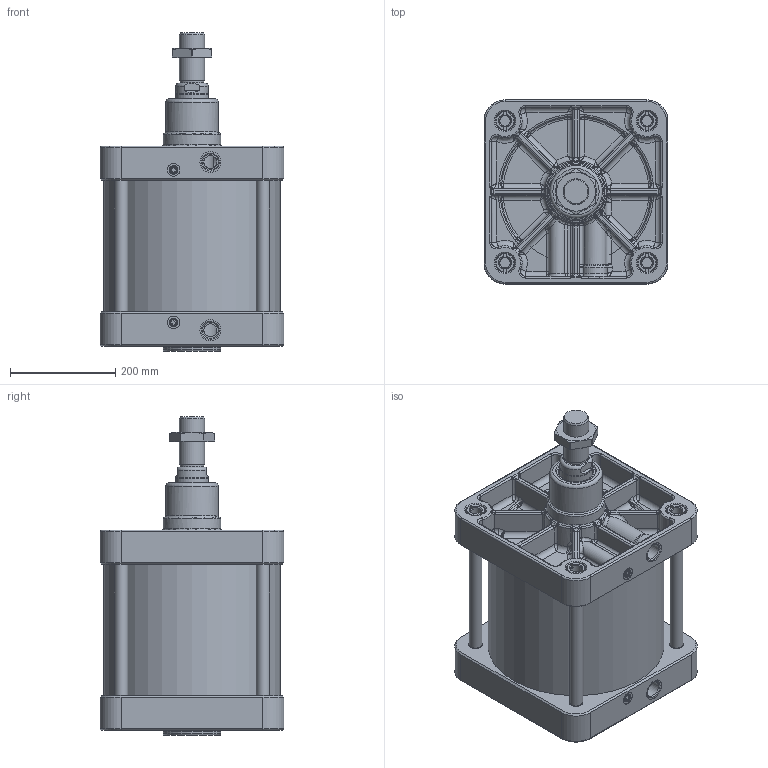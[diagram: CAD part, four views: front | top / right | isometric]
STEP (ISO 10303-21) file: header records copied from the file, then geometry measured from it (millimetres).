
FILE_DESCRIPTION(/* description */ (''),/* implementation_level */ '2;1');
FILE_NAME(/* name */ 'T:\Archivio Inventor\- 00 NUOVI STP PER SITO CON STELO CHE SI MUOVE\SERIE H - U\SERIE UDM\UDM320.---.GS.M\UDM320.160.GS.M.stp',/* time_stamp */ '2020-04-29T16:29:17+02:00',/* author */ ('carlo.corazza'),/* organization */ (''),/* preprocessor_version */ 'ST-DEVELOPER v16.5',/* originating_system */ 'Autodesk Inventor 2017',/* authorisation */ '');
FILE_SCHEMA (('AUTOMOTIVE_DESIGN { 1 0 10303 214 3 1 1 }'));
Length unit declared in the file: millimetre
Products named in the file (7): UDM320.160.GS.M; TP; STELO-160; TA; CORPO-160; TIRANTE-160; 29.2048.000.0
Assembly tree (9 placements, depth 2):
  UDM320.160.GS.M
    TP
    STELO-160
    TA
    TIRANTE-160  x4
    CORPO-160
    29.2048.000.0
Bounding box: 350 x 350 x 606 mm (x, y, z)
Volume: 13169859.9 mm3; surface area: 1879399.2 mm2
Topology: 9 solids, 16 shells, 1710 faces, 3937 edges, 2221 vertices
Faces by surface type: cylinder 439, bspline 432, plane 380, torus 252, cone 115, sphere 92
Full cylindrical faces by diameter (mm): 8 x2, 9 x1, 10 x1, 11 x2, 11.2 x2, 12 x2, 12.376 x1, 13.4 x4, 14 x2, 15.8 x4, 16 x6, 20.752 x8, 24 x10, 24.5 x8, 25 x6, 30.291 x2, 36 x9, 37 x8, 40 x2, 44.8 x1, 45.835 x1, 48 x1, 62 x1, 63 x1, 64 x1, 64.293 x1, 65.8 x1, 73 x1, 75 x3, 100 x1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
Entity records: 64917 total; most frequent: CARTESIAN_POINT 27888, DIRECTION 7314, ORIENTED_EDGE 7088, EDGE_CURVE 3544, AXIS2_PLACEMENT_3D 3113, VERTEX_POINT 2134, EDGE_LOOP 1966, FACE_OUTER_BOUND 1683
